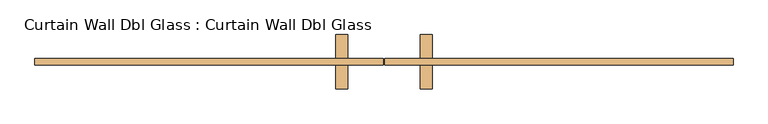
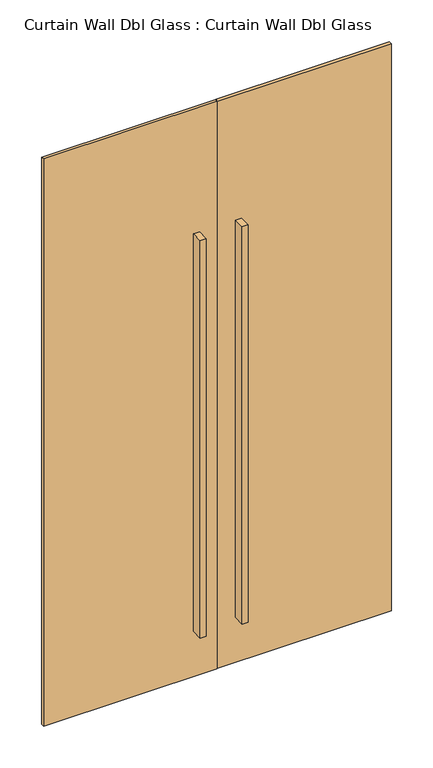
"""IFC4 building model written with IfcOpenShell, lengths in millimetres: door geometry, Curtain Wall Dbl Glass : Curtain Wall Dbl Glass."""

from ifc_helpers import new_model, si_unit, frame, origin, origin_with_axes, place, context, project, spatial, polyline, outline, extrude, source, transform, mapped, element, save


def curtain_wall_dbl_glass_curtain_wall_dbl_glass_dc526c47(model_context):
    return source(origin(), model_context, "Body", "SweptSolid", [
        extrude(outline(polyline([(-76.2, -12.7), (-101.6, -12.7), (-101.6, 38.1), (-76.2, 38.1), (-76.2, -12.7)])), frame((0.0, 0.0, 203.2), z_axis=(0.0, 0.0, 1.0), x_axis=(1.0, 0.0, 0.0)), (0.0, 0.0, 1.0), 1778.0),
        extrude(outline(polyline([(-101.6, 101.6), (-76.2, 101.6), (-76.2, 50.8), (-101.6, 50.8), (-101.6, 101.6)])), frame((0.0, 0.0, 203.2), z_axis=(0.0, 0.0, 1.0), x_axis=(1.0, 0.0, 0.0)), (0.0, 0.0, 1.0), 1778.0),
        extrude(outline(polyline([(101.6, -12.7), (76.2, -12.7), (76.2, 38.1), (101.6, 38.1), (101.6, -12.7)])), frame((0.0, 0.0, 203.2), z_axis=(0.0, 0.0, 1.0), x_axis=(1.0, 0.0, 0.0)), (0.0, 0.0, 1.0), 1778.0),
        extrude(outline(polyline([(76.2, 101.6), (101.6, 101.6), (101.6, 50.8), (76.2, 50.8), (76.2, 101.6)])), frame((0.0, 0.0, 203.2), z_axis=(0.0, 0.0, 1.0), x_axis=(1.0, 0.0, 0.0)), (0.0, 0.0, 1.0), 1778.0),
        extrude(outline(polyline([(-1.5875, 38.1), (-736.6, 38.1), (-736.6, 50.8), (-1.5875, 50.8), (-1.5875, 38.1)])), origin_with_axes(), (0.0, 0.0, 1.0), 2540.0),
        extrude(outline(polyline([(736.6, 38.1), (1.5875, 38.1), (1.5875, 50.8), (736.6, 50.8), (736.6, 38.1)])), origin_with_axes(), (0.0, 0.0, 1.0), 2540.0),
    ])


if __name__ == "__main__":
    model = new_model("IFC4")
    model_context = context("Model", 3, world=origin())
    ifc_project = project(units=[si_unit("LENGTHUNIT", "METRE", prefix="MILLI")], contexts=[model_context])
    site = spatial("IfcSite", under=ifc_project)
    building = spatial("IfcBuilding", under=site)
    placement = place(None, origin())
    curtain_wall_dbl_glass_curtain_wall_dbl_glass_shape = curtain_wall_dbl_glass_curtain_wall_dbl_glass_dc526c47(model_context)
    element("IfcDoor", 1, ObjectType="Curtain Wall Dbl Glass : Curtain Wall Dbl Glass", at=placement, inside=building, context=model_context, shape_type="MappedRepresentation", body=[
        mapped(curtain_wall_dbl_glass_curtain_wall_dbl_glass_shape, transform((0.0, 0.0, 0.0), x_axis=(1.0, 0.0, 0.0), y_axis=(0.0, 1.0, 0.0), z_axis=(0.0, 0.0, 1.0))),
    ])
    save(model, "model.ifc")
